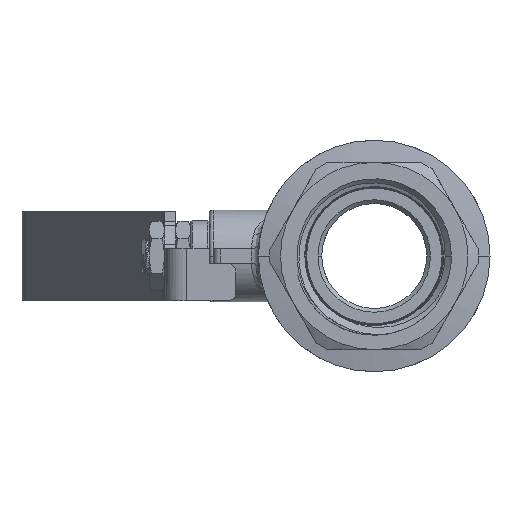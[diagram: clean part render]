
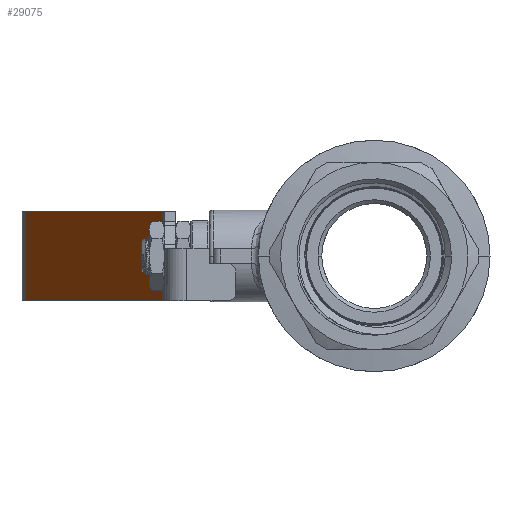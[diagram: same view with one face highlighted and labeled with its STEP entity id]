
A CAD part, left-side view. The second image highlights one B-rep face of the part: STEP entity #29075.
In plain terms, the highlighted planar face has unit normal (-0.5, 0.866, 0).
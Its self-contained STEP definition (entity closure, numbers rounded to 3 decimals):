
#28206=DIRECTION('',(0.,0.,-1.));
#28207=VECTOR('',#28206,12.);
#28208=CARTESIAN_POINT('',(7.446,1.701,6.));
#28209=LINE('',#28208,#28207);
#28213=DIRECTION('',(0.,0.,1.));
#28214=VECTOR('',#28213,12.);
#28215=CARTESIAN_POINT('',(39.311,20.098,-6.));
#28216=LINE('',#28215,#28214);
#28626=DIRECTION('',(0.866,0.5,0.));
#28627=VECTOR('',#28626,36.794);
#28628=CARTESIAN_POINT('',(7.446,1.701,6.));
#28629=LINE('',#28628,#28627);
#28661=DIRECTION('',(0.866,0.5,0.));
#28662=VECTOR('',#28661,36.794);
#28663=CARTESIAN_POINT('',(7.446,1.701,-6.));
#28664=LINE('',#28663,#28662);
#28796=CARTESIAN_POINT('',(7.446,1.701,-6.));
#28797=CARTESIAN_POINT('',(39.311,20.098,-6.));
#28798=VERTEX_POINT('',#28796);
#28799=VERTEX_POINT('',#28797);
#28800=CARTESIAN_POINT('',(7.446,1.701,6.));
#28801=CARTESIAN_POINT('',(39.311,20.098,6.));
#28802=VERTEX_POINT('',#28800);
#28803=VERTEX_POINT('',#28801);
#29061=CARTESIAN_POINT('',(6.75,1.299,-6.));
#29062=DIRECTION('',(0.5,-0.866,0.));
#29063=DIRECTION('',(0.866,0.5,0.));
#29064=AXIS2_PLACEMENT_3D('',#29061,#29062,#29063);
#29065=PLANE('',#29064);
#29067=ORIENTED_EDGE('',*,*,#29066,.T.);
#29069=ORIENTED_EDGE('',*,*,#29068,.T.);
#29070=ORIENTED_EDGE('',*,*,#29055,.T.);
#29072=ORIENTED_EDGE('',*,*,#29071,.F.);
#29073=EDGE_LOOP('',(#29067,#29069,#29070,#29072));
#29074=FACE_OUTER_BOUND('',#29073,.F.);
#29075=ADVANCED_FACE('',(#29074),#29065,.F.);
#29055=EDGE_CURVE('',#28799,#28803,#28216,.T.);
#29066=EDGE_CURVE('',#28802,#28798,#28209,.T.);
#29068=EDGE_CURVE('',#28798,#28799,#28664,.T.);
#29071=EDGE_CURVE('',#28802,#28803,#28629,.T.);
